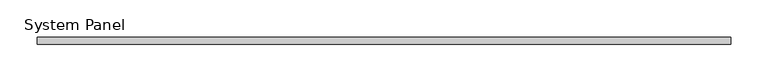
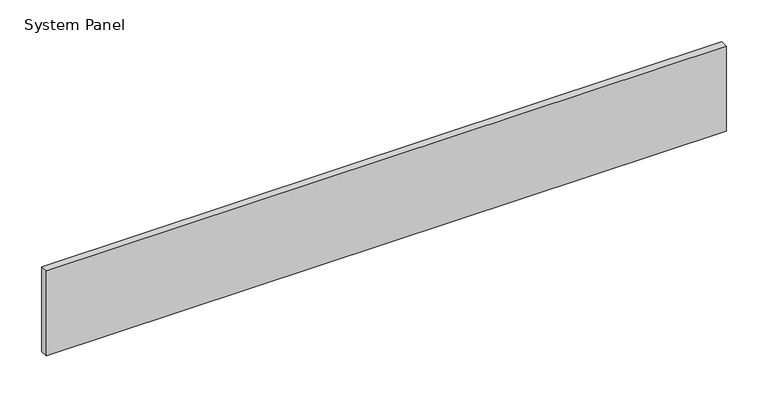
"""IFC4 building model written with IfcOpenShell, lengths in millimetres: plate geometry, System Panel : VACÍO."""

from ifc_helpers import new_model, si_unit, origin, origin_with_axes, place, context, project, spatial, polyline, outline, extrude, source, transform, mapped, element, save


def system_panel_a232d2f8(model_context):
    return source(origin(), model_context, "Body", "SweptSolid", [
        extrude(outline(polyline([(468.0929082, -5.0), (-468.0929082, -5.0), (-468.0929082, 5.0), (468.0929082, 5.0), (468.0929082, -5.0)])), origin_with_axes(), (0.0, 0.0, 1.0), 124.0),
    ])


if __name__ == "__main__":
    model = new_model("IFC4")
    model_context = context("Model", 3, world=origin())
    ifc_project = project(units=[si_unit("LENGTHUNIT", "METRE", prefix="MILLI")], contexts=[model_context])
    site = spatial("IfcSite", under=ifc_project)
    building = spatial("IfcBuilding", under=site)
    placement = place(None, origin())
    system_panel_shape = system_panel_a232d2f8(model_context)
    element("IfcPlate", 1, ObjectType="System Panel : VACÍO", at=placement, inside=building, context=model_context, shape_type="MappedRepresentation", body=[
        mapped(system_panel_shape, transform((0.0, 0.0, 0.0), x_axis=(1.0, 0.0, 0.0), y_axis=(0.0, 1.0, 0.0), z_axis=(0.0, 0.0, 1.0))),
    ])
    save(model, "model.ifc")
